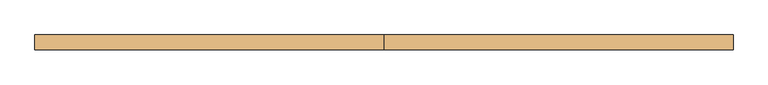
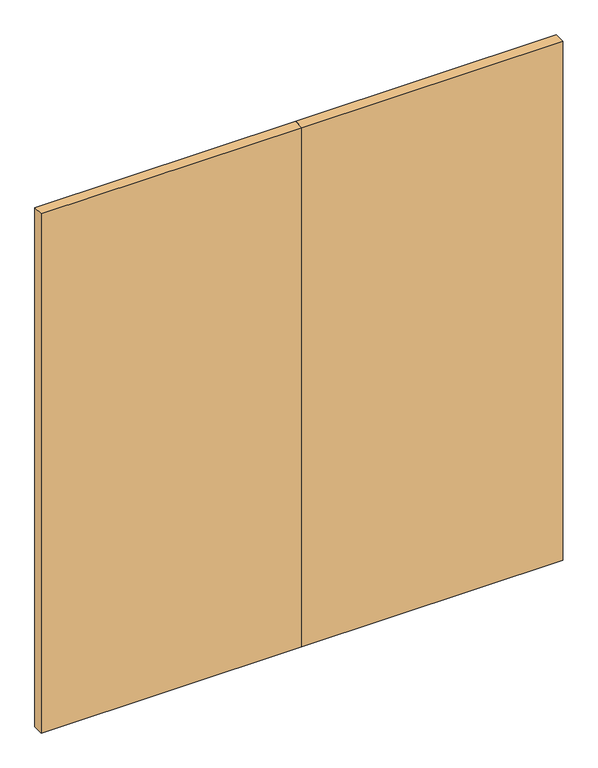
"""IFC4 building model written with IfcOpenShell, lengths in millimetres: door geometry, 営_両開き扉 : LD4 1900*2000."""

from ifc_helpers import new_model, si_unit, origin, origin_with_axes, place, context, project, spatial, polyline, outline, extrude, source, transform, mapped, element, save


def door_2816d948(model_context):
    return source(origin(), model_context, "Body", "SweptSolid", [
        extrude(outline(polyline([(0.0, 15.0), (0.0, 55.0), (950.0, 55.0), (950.0, 15.0), (0.0, 15.0)])), origin_with_axes(), (0.0, 0.0, 1.0), 2000.0),
        extrude(outline(polyline([(0.0, 15.0), (-950.0, 15.0), (-950.0, 55.0), (0.0, 55.0), (0.0, 15.0)])), origin_with_axes(), (0.0, 0.0, 1.0), 2000.0),
    ])


if __name__ == "__main__":
    model = new_model("IFC4")
    model_context = context("Model", 3, world=origin())
    ifc_project = project(units=[si_unit("LENGTHUNIT", "METRE", prefix="MILLI")], contexts=[model_context])
    site = spatial("IfcSite", under=ifc_project)
    building = spatial("IfcBuilding", under=site)
    placement = place(None, origin())
    door_shape = door_2816d948(model_context)
    element("IfcDoor", 1, ObjectType="営_両開き扉 : LD4 1900*2000", at=placement, inside=building, context=model_context, shape_type="MappedRepresentation", body=[
        mapped(door_shape, transform((0.0, 0.0, 0.0), x_axis=(1.0, 0.0, 0.0), y_axis=(0.0, 1.0, 0.0), z_axis=(0.0, 0.0, 1.0))),
    ])
    save(model, "model.ifc")
